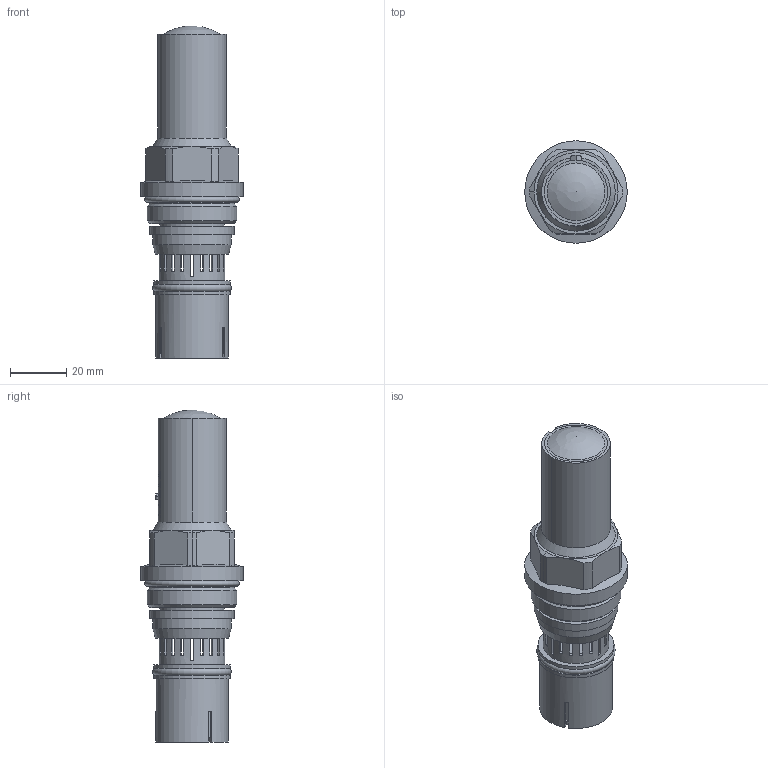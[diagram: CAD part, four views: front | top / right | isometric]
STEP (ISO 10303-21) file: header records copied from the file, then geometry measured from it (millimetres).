
FILE_DESCRIPTION(('TFLEX Exchange Step'),'2;1');
FILE_NAME('Cartridge VT.PICC.G02.stp', '2023-08-16T19:06:24+03:00',('denis'),('Unknown organisation'),'TFLEX Exchange 2023.0','T-FLEX CAD','Unknown authorisation');
FILE_SCHEMA( ('AUTOMOTIVE_DESIGN { 1 0 10303 214 1 1 1 1 }') );
Length unit declared in the file: millimetre
Products named in the file (7): 3D Узел_1; 3D Узел_2; 3D Узел_3; 3D Узел_4; 3D Узел_5; 0; Cartridge VT.PICC.G02
Assembly tree (6 placements, depth 3):
  Cartridge VT.PICC.G02
    0
      3D Узел_1
      3D Узел_2
      3D Узел_3
      3D Узел_4
      3D Узел_5
Bounding box: 36.6 x 36.6 x 118.5 mm (x, y, z)
Volume: 57158.4 mm3; surface area: 29143.3 mm2
Topology: 24 solids, 24 shells, 416 faces, 1122 edges, 747 vertices
Faces by surface type: plane 238, bspline 112, cylinder 51, cone 12, torus 2, sphere 1
Full cylindrical faces by diameter (mm): 18 x2, 21 x1, 21.5 x1, 22.536 x1, 23 x1, 23.5 x2, 24 x1, 25 x1, 26 x1, 27.2 x2, 28 x1, 30 x1, 30.2 x1, 32 x1, 36.6 x1
Entity records: 14828 total; most frequent: CARTESIAN_POINT 4803, ORIENTED_EDGE 2242, DIRECTION 1671, EDGE_CURVE 1121, VERTEX_POINT 742, VECTOR 613, LINE 613, AXIS2_PLACEMENT_3D 529
